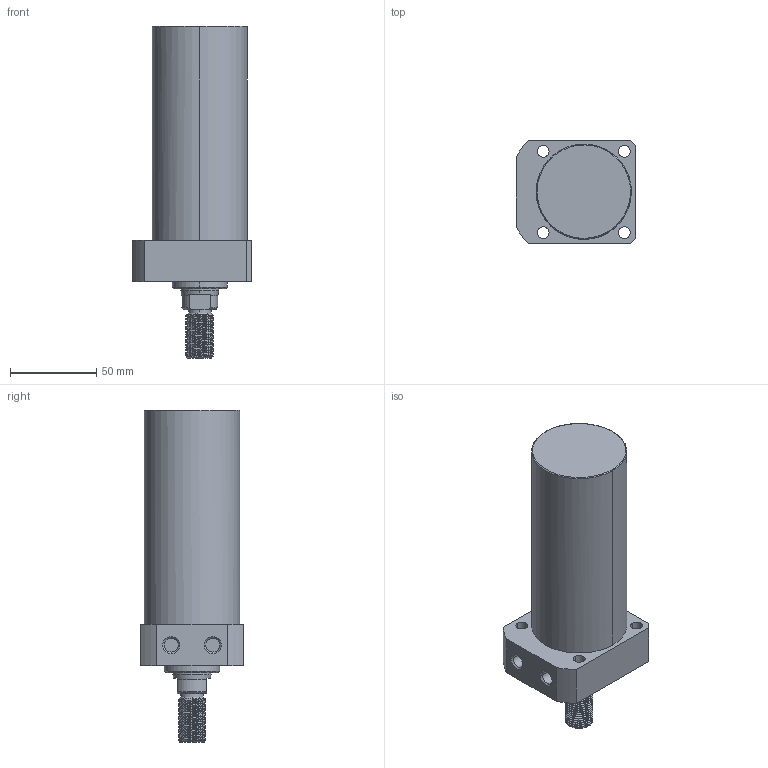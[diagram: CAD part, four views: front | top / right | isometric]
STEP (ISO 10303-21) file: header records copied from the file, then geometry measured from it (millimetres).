
FILE_DESCRIPTION((' '),'2;1');
FILE_NAME( 'TLLR-055CT-095.STEP.stp', '2025-10-24T16:34:47', (' '), ('--- Datakit www.datakit.com---'), ' Datakit CrossCadWare V2024.1 Dec 21 2023', 'Mastercam 2025', ' ');
FILE_SCHEMA(('AUTOMOTIVE_DESIGN { 1 0 10303 214 1 1 1 1 }'));
Length unit declared in the file: millimetre
Products named in the file (1): TLLR-055CT-095
Bounding box: 69 x 60 x 192 mm (x, y, z)
Volume: 399335.1 mm3; surface area: 41234.7 mm2
Topology: 1 solids, 1 shells, 101 faces, 356 edges, 265 vertices
Faces by surface type: cylinder 61, plane 20, cone 16, bspline 2, torus 2
Entity records: 11228 total; most frequent: CARTESIAN_POINT 8148, ORIENTED_EDGE 712, DIRECTION 516, EDGE_CURVE 356, VERTEX_POINT 265, AXIS2_PLACEMENT_3D 209, B_SPLINE_CURVE_WITH_KNOTS 149, EDGE_LOOP 117
